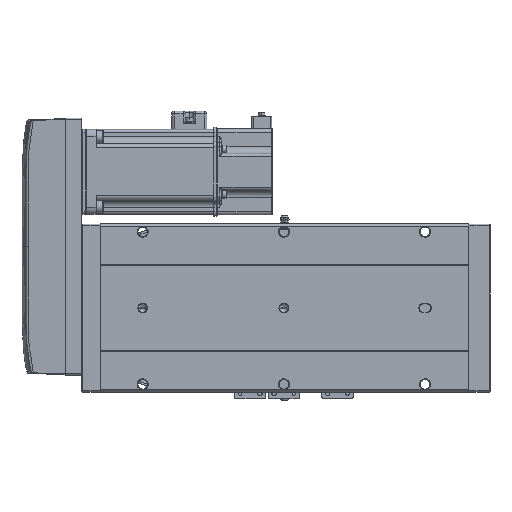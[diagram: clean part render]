
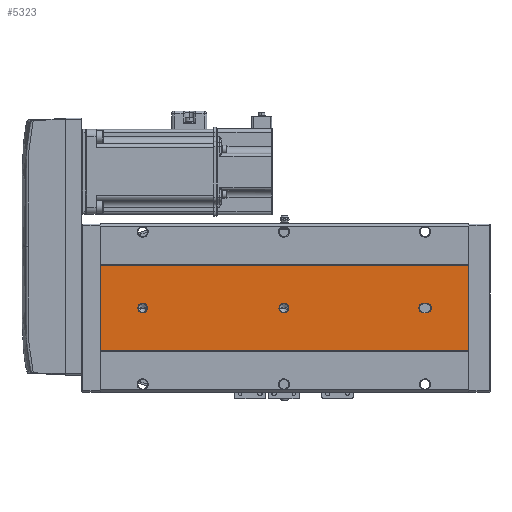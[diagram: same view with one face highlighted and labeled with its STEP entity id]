
A CAD part, front view. The second image highlights one B-rep face of the part: STEP entity #5323.
In plain terms, the highlighted planar face has unit normal (0, -1, 0).
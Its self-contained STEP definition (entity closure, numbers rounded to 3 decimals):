
#88 = DIRECTION ( 'NONE',  ( 0., 0., -1. ) ) ;
#1739 = ORIENTED_EDGE ( 'NONE', *, *, #94218, .T. ) ;
#2137 = DIRECTION ( 'NONE',  ( 1., 0., 0. ) ) ;
#2268 = LINE ( 'NONE', #73717, #59665 ) ;
#2307 = ORIENTED_EDGE ( 'NONE', *, *, #87121, .T. ) ;
#2905 = ORIENTED_EDGE ( 'NONE', *, *, #26975, .T. ) ;
#3456 = VERTEX_POINT ( 'NONE', #23565 ) ;
#5323 = ADVANCED_FACE ( 'NONE', ( #17472, #31789, #32941, #47347 ), #60341, .F. ) ;
#5502 = CIRCLE ( 'NONE', #9041, 3.5 ) ;
#6650 = CARTESIAN_POINT ( 'NONE',  ( -39.892, -52.848, 30. ) ) ;
#6886 = VERTEX_POINT ( 'NONE', #28288 ) ;
#7612 = LINE ( 'NONE', #25789, #57801 ) ;
#8250 = LINE ( 'NONE', #35717, #28564 ) ;
#8387 = DIRECTION ( 'NONE',  ( 0., 0., 1. ) ) ;
#9041 = AXIS2_PLACEMENT_3D ( 'NONE', #93388, #55097, #8387 ) ;
#9108 = EDGE_CURVE ( 'NONE', #34148, #3456, #25166, .T. ) ;
#11163 = ORIENTED_EDGE ( 'NONE', *, *, #23952, .T. ) ;
#11580 = VERTEX_POINT ( 'NONE', #97556 ) ;
#13024 = EDGE_LOOP ( 'NONE', ( #57210, #29508, #52092, #34552 ) ) ;
#13268 = VERTEX_POINT ( 'NONE', #59326 ) ;
#14315 = DIRECTION ( 'NONE',  ( 0., 1., 0. ) ) ;
#14553 = CARTESIAN_POINT ( 'NONE',  ( -39.892, -52.848, 127.5 ) ) ;
#14556 = DIRECTION ( 'NONE',  ( 0., 0., 1. ) ) ;
#17472 = FACE_BOUND ( 'NONE', #85661, .T. ) ;
#18218 = AXIS2_PLACEMENT_3D ( 'NONE', #61013, #52966, #14556 ) ;
#21341 = LINE ( 'NONE', #55935, #24883 ) ;
#23240 = ORIENTED_EDGE ( 'NONE', *, *, #82793, .T. ) ;
#23565 = CARTESIAN_POINT ( 'NONE',  ( -39.892, -52.848, 234.5 ) ) ;
#23952 = EDGE_CURVE ( 'NONE', #13268, #11580, #8250, .T. ) ;
#24085 = CARTESIAN_POINT ( 'NONE',  ( -36.392, -52.848, 30. ) ) ;
#24883 = VECTOR ( 'NONE', #2137, 1000. ) ;
#25166 = CIRCLE ( 'NONE', #26291, 3.5 ) ;
#25789 = CARTESIAN_POINT ( 'NONE',  ( -9.892, -52.848, 261. ) ) ;
#25903 = ORIENTED_EDGE ( 'NONE', *, *, #59342, .T. ) ;
#26291 = AXIS2_PLACEMENT_3D ( 'NONE', #27045, #80638, #42733 ) ;
#26975 = EDGE_CURVE ( 'NONE', #3456, #34148, #40474, .T. ) ;
#27045 = CARTESIAN_POINT ( 'NONE',  ( -39.892, -52.848, 231. ) ) ;
#27174 = VERTEX_POINT ( 'NONE', #68431 ) ;
#27624 = DIRECTION ( 'NONE',  ( 0., 0., -1. ) ) ;
#28288 = CARTESIAN_POINT ( 'NONE',  ( -36.392, -52.848, 32. ) ) ;
#28564 = VECTOR ( 'NONE', #42424, 1000. ) ;
#28776 = EDGE_CURVE ( 'NONE', #97546, #84157, #5502, .T. ) ;
#29508 = ORIENTED_EDGE ( 'NONE', *, *, #76432, .F. ) ;
#31789 = FACE_BOUND ( 'NONE', #35045, .T. ) ;
#32941 = FACE_BOUND ( 'NONE', #73212, .T. ) ;
#33673 = DIRECTION ( 'NONE',  ( 0., 0., 1. ) ) ;
#34058 = AXIS2_PLACEMENT_3D ( 'NONE', #6650, #14315, #74518 ) ;
#34148 = VERTEX_POINT ( 'NONE', #84248 ) ;
#34552 = ORIENTED_EDGE ( 'NONE', *, *, #75821, .T. ) ;
#35045 = EDGE_LOOP ( 'NONE', ( #54905, #1739 ) ) ;
#35717 = CARTESIAN_POINT ( 'NONE',  ( -43.392, -52.848, 261. ) ) ;
#36384 = AXIS2_PLACEMENT_3D ( 'NONE', #80272, #96377, #73489 ) ;
#38815 = CARTESIAN_POINT ( 'NONE',  ( -39.892, -52.848, 134.5 ) ) ;
#39317 = EDGE_CURVE ( 'NONE', #63877, #13268, #97816, .T. ) ;
#39650 = CARTESIAN_POINT ( 'NONE',  ( -69.892, -52.848, 261. ) ) ;
#40346 = AXIS2_PLACEMENT_3D ( 'NONE', #75338, #74992, #44203 ) ;
#40474 = CIRCLE ( 'NONE', #36384, 3.5 ) ;
#41286 = CARTESIAN_POINT ( 'NONE',  ( -39.892, -52.848, 26.5 ) ) ;
#41513 = VECTOR ( 'NONE', #88, 1000. ) ;
#42424 = DIRECTION ( 'NONE',  ( 0., 0., 1. ) ) ;
#42733 = DIRECTION ( 'NONE',  ( 0., 0., 1. ) ) ;
#43392 = ORIENTED_EDGE ( 'NONE', *, *, #39317, .T. ) ;
#44203 = DIRECTION ( 'NONE',  ( 0., 0., 1. ) ) ;
#45912 = CARTESIAN_POINT ( 'NONE',  ( -36.392, -52.848, 261. ) ) ;
#47262 = CIRCLE ( 'NONE', #34058, 3.5 ) ;
#47347 = FACE_OUTER_BOUND ( 'NONE', #13024, .T. ) ;
#50050 = EDGE_CURVE ( 'NONE', #75677, #71922, #21341, .T. ) ;
#50465 = DIRECTION ( 'NONE',  ( 0., 1., 0. ) ) ;
#52092 = ORIENTED_EDGE ( 'NONE', *, *, #50050, .F. ) ;
#52966 = DIRECTION ( 'NONE',  ( 0., 1., 0. ) ) ;
#53093 = VECTOR ( 'NONE', #27624, 1000. ) ;
#54905 = ORIENTED_EDGE ( 'NONE', *, *, #28776, .T. ) ;
#55097 = DIRECTION ( 'NONE',  ( 0., 1., 0. ) ) ;
#55935 = CARTESIAN_POINT ( 'NONE',  ( -69.892, -52.848, 261. ) ) ;
#57210 = ORIENTED_EDGE ( 'NONE', *, *, #60377, .T. ) ;
#57684 = CARTESIAN_POINT ( 'NONE',  ( -69.892, -52.848, 261. ) ) ;
#57801 = VECTOR ( 'NONE', #79687, 1000. ) ;
#59326 = CARTESIAN_POINT ( 'NONE',  ( -43.392, -52.848, 30. ) ) ;
#59342 = EDGE_CURVE ( 'NONE', #11580, #6886, #81553, .T. ) ;
#59665 = VECTOR ( 'NONE', #97609, 1000. ) ;
#60341 = PLANE ( 'NONE',  #18218 ) ;
#60377 = EDGE_CURVE ( 'NONE', #93473, #27174, #2268, .T. ) ;
#61013 = CARTESIAN_POINT ( 'NONE',  ( -69.892, -52.848, 261. ) ) ;
#62101 = VERTEX_POINT ( 'NONE', #24085 ) ;
#62842 = CARTESIAN_POINT ( 'NONE',  ( -39.892, -52.848, 32. ) ) ;
#63662 = ORIENTED_EDGE ( 'NONE', *, *, #9108, .T. ) ;
#63877 = VERTEX_POINT ( 'NONE', #41286 ) ;
#68431 = CARTESIAN_POINT ( 'NONE',  ( -9.892, -52.848, 0. ) ) ;
#71519 = CIRCLE ( 'NONE', #85588, 3.5 ) ;
#71922 = VERTEX_POINT ( 'NONE', #89262 ) ;
#72106 = CARTESIAN_POINT ( 'NONE',  ( -69.892, -52.848, 0. ) ) ;
#72908 = CARTESIAN_POINT ( 'NONE',  ( -39.892, -52.848, 131. ) ) ;
#73212 = EDGE_LOOP ( 'NONE', ( #63662, #2905 ) ) ;
#73489 = DIRECTION ( 'NONE',  ( 0., 0., 1. ) ) ;
#73717 = CARTESIAN_POINT ( 'NONE',  ( -69.892, -52.848, 0. ) ) ;
#74518 = DIRECTION ( 'NONE',  ( 0., 0., 1. ) ) ;
#74992 = DIRECTION ( 'NONE',  ( 0., 1., 0. ) ) ;
#75338 = CARTESIAN_POINT ( 'NONE',  ( -39.892, -52.848, 30. ) ) ;
#75677 = VERTEX_POINT ( 'NONE', #39650 ) ;
#75821 = EDGE_CURVE ( 'NONE', #75677, #93473, #87884, .T. ) ;
#76432 = EDGE_CURVE ( 'NONE', #71922, #27174, #7612, .T. ) ;
#79687 = DIRECTION ( 'NONE',  ( 0., 0., -1. ) ) ;
#80021 = DIRECTION ( 'NONE',  ( 0., 0., 1. ) ) ;
#80272 = CARTESIAN_POINT ( 'NONE',  ( -39.892, -52.848, 231. ) ) ;
#80638 = DIRECTION ( 'NONE',  ( 0., 1., 0. ) ) ;
#81553 = CIRCLE ( 'NONE', #84720, 3.5 ) ;
#82793 = EDGE_CURVE ( 'NONE', #62101, #63877, #47262, .T. ) ;
#84157 = VERTEX_POINT ( 'NONE', #38815 ) ;
#84248 = CARTESIAN_POINT ( 'NONE',  ( -39.892, -52.848, 227.5 ) ) ;
#84720 = AXIS2_PLACEMENT_3D ( 'NONE', #62842, #93720, #33673 ) ;
#85588 = AXIS2_PLACEMENT_3D ( 'NONE', #72908, #50465, #80021 ) ;
#85661 = EDGE_LOOP ( 'NONE', ( #11163, #25903, #2307, #23240, #43392 ) ) ;
#85990 = LINE ( 'NONE', #45912, #41513 ) ;
#87121 = EDGE_CURVE ( 'NONE', #6886, #62101, #85990, .T. ) ;
#87884 = LINE ( 'NONE', #57684, #53093 ) ;
#89262 = CARTESIAN_POINT ( 'NONE',  ( -9.892, -52.848, 261. ) ) ;
#93388 = CARTESIAN_POINT ( 'NONE',  ( -39.892, -52.848, 131. ) ) ;
#93473 = VERTEX_POINT ( 'NONE', #72106 ) ;
#93720 = DIRECTION ( 'NONE',  ( 0., 1., 0. ) ) ;
#94218 = EDGE_CURVE ( 'NONE', #84157, #97546, #71519, .T. ) ;
#96377 = DIRECTION ( 'NONE',  ( 0., 1., 0. ) ) ;
#97546 = VERTEX_POINT ( 'NONE', #14553 ) ;
#97556 = CARTESIAN_POINT ( 'NONE',  ( -43.392, -52.848, 32. ) ) ;
#97609 = DIRECTION ( 'NONE',  ( 1., 0., 0. ) ) ;
#97816 = CIRCLE ( 'NONE', #40346, 3.5 ) ;
